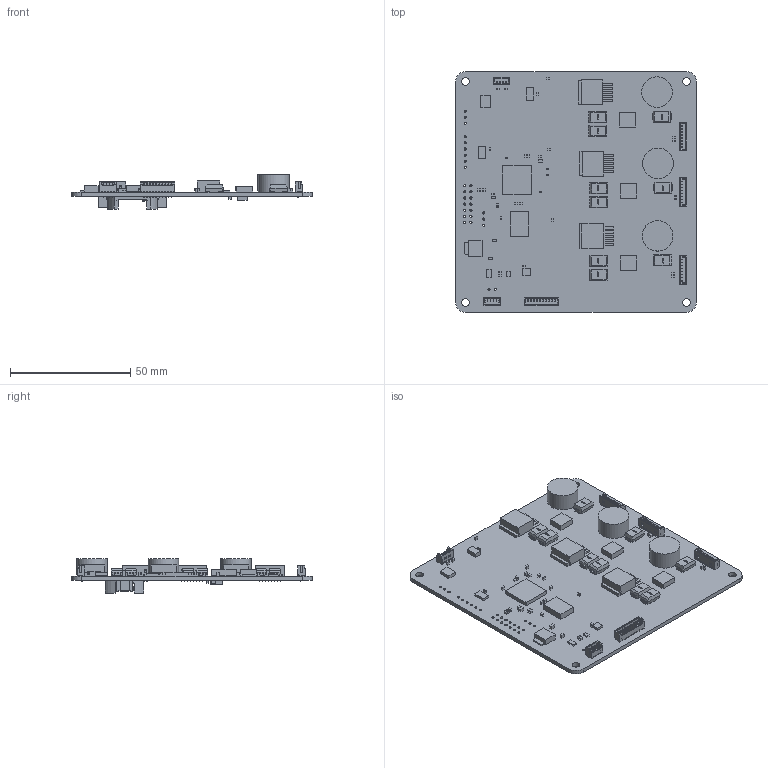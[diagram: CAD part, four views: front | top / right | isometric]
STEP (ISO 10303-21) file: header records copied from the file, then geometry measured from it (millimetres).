
FILE_DESCRIPTION(('Open CASCADE Model'),'2;1');
FILE_NAME('Open CASCADE Shape Model','2021-03-21T17:38:15',('Author'),( 'Open CASCADE'),'Open CASCADE STEP processor 6.8','Open CASCADE 6.8' ,'Unknown');
FILE_SCHEMA(('AUTOMOTIVE_DESIGN { 1 0 10303 214 1 1 1 1 }'));
Length unit declared in the file: millimetre
Products named in the file (131): PCB; Board; Open CASCADE STEP translator 6.8 1.1.1; R23; 5921338720; Extruded; R22; R21; R19; R18; R20; R17; R16; R15; R14; P11; BATT_HOLDER_SMTU2032-LF_RGB8421504; C21; T491D227M016AT; R13; 5921334720; C24; D4; 5921336720; U10; 5921336560; 5921332320; 5921331840; L3; 5921331600; Cylinder; C22; C14; R8; C17; D2; U9; L2; C15; C4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
Assembly tree (195 placements, depth 4):
  PCB
    Board
      Open CASCADE STEP translator 6.8 1.1.1
    R23
      5921338720
        Extruded
    R22
      5921338720
        Extruded
    R21
      5921338720
        Extruded
    R19
      5921338720
        Extruded
    R18
      5921338720
        Extruded
    R20
      5921338720
        Extruded
    R17
      5921338720
        Extruded
    R16
      5921338720
        Extruded
    R15
      5921338720
        Extruded
    R14
      5921338720
        Extruded
    P11
      BATT_HOLDER_SMTU2032-LF_RGB8421504
    C21
      T491D227M016AT
    R13
      5921334720
        Extruded
    C24
      T491D227M016AT
    D4
      5921336720
        Extruded
    U10
      5921336560
        Extruded
      5921332320  x5
        Extruded
      5921331840
        Extruded
    L3
      5921331600
        Cylinder
    C22
      T491D227M016AT
    C14
      T491D227M016AT
    R8
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Bounding box: 99.95 x 99.95 x 14.22 mm (x, y, z)
Volume: 23995.6 mm3; surface area: 30152.6 mm2
Topology: 121 solids, 121 shells, 3105 faces, 8152 edges, 5438 vertices
Faces by surface type: plane 2892, cylinder 193, bspline 4, revolution 4, sphere 4, torus 4, cone 4
Full cylindrical faces by diameter (mm): 0.5 x42, 0.9 x28, 3.175 x4, 12.7 x3
Entity records: 46300 total; most frequent: CARTESIAN_POINT 7647, ORIENTED_EDGE 6888, DIRECTION 6790, EDGE_CURVE 3444, LINE 3096, VECTOR 3096, VERTEX_POINT 2244, AXIS2_PLACEMENT_3D 1845
